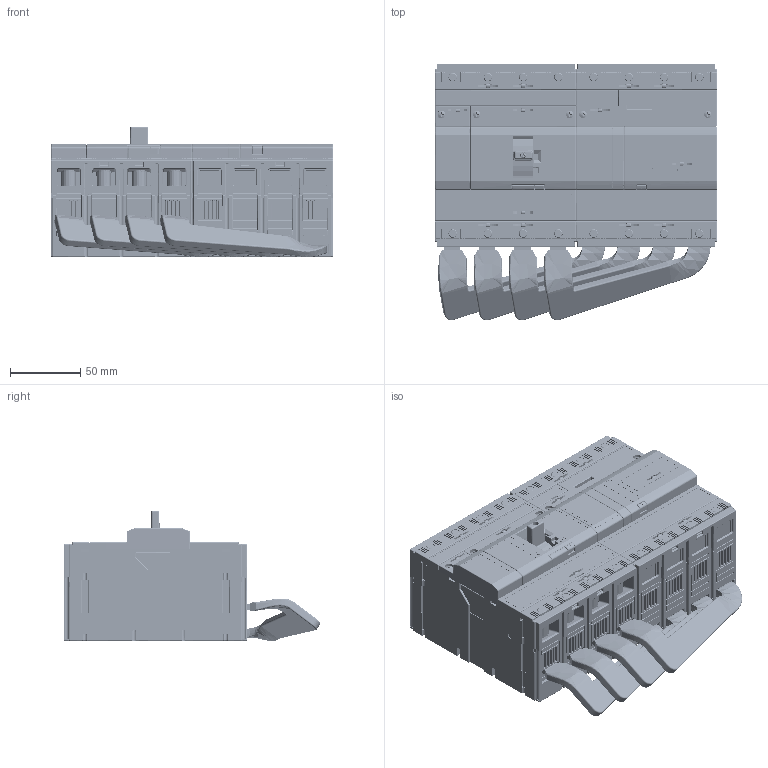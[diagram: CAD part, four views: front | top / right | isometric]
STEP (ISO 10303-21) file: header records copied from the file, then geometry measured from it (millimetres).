
FILE_DESCRIPTION (( 'STEP AP214' ), '1' );
FILE_NAME ('BC160NT405_406__RCD-BC0_Z_fin2.step', '2013-06-18T08:30:55', ( 'Siemens' ), ( 'Siemens' ), 'SwSTEP 2.0', 'SolidWorks 2011', '' );
FILE_SCHEMA (( 'AUTOMOTIVE_DESIGN' ));
Length unit declared in the file: millimetre
Products named in the file (1): BC160NT405_406__RCD-BC0_Z_fin2
Bounding box: 200 x 181.92 x 92.97 mm (x, y, z)
Volume: 1765541.7 mm3; surface area: 354645.8 mm2
Topology: 21 solids, 27 shells, 11997 faces, 32618 edges, 20709 vertices
Faces by surface type: plane 6330, cylinder 3448, bspline 1153, cone 842, torus 224
Entity records: 568223 total; most frequent: CARTESIAN_POINT 149151, ORIENTED_EDGE 65006, DIRECTION 52552, EDGE_CURVE 32503, VERTEX_POINT 20709, VECTOR 20674, LINE 20674, AXIS2_PLACEMENT_3D 15939
